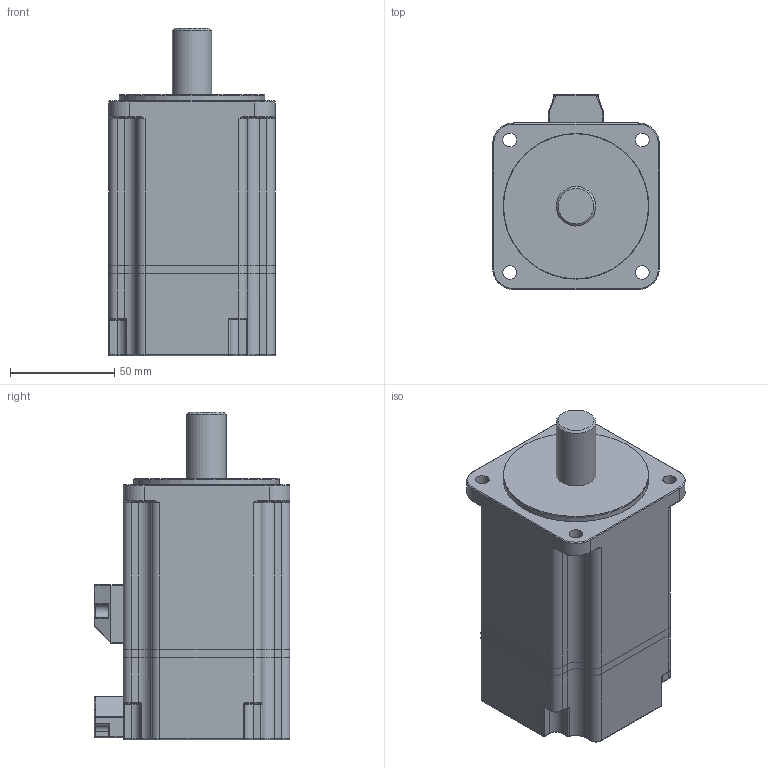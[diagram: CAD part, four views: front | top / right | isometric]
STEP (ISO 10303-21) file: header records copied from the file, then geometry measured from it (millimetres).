
FILE_DESCRIPTION(/* description */ (''),/* implementation_level */ '2;1');
FILE_NAME(/* name */ '80-MSL01330.stp',/* time_stamp */ '2019-11-22T13:32:59+08:00',/* author */ (''),/* organization */ (''),/* preprocessor_version */ 'ST-DEVELOPER v16',/* originating_system */ 'SIEMENS PLM Software NX 10.0',/* authorisation */ '');
FILE_SCHEMA (('CONFIG_CONTROL_DESIGN'));
Length unit declared in the file: millimetre
Products named in the file (1): 80-MSL01330
Bounding box: 80 x 94 x 157.5 mm (x, y, z)
Volume: 728847.6 mm3; surface area: 78836.3 mm2
Topology: 5 solids, 5 shells, 341 faces, 822 edges, 466 vertices
Faces by surface type: cylinder 155, plane 90, torus 50, sphere 27, bspline 17, cone 2
Full cylindrical faces by diameter (mm): 6.6 x4, 19 x1, 70 x1
Entity records: 9898 total; most frequent: CARTESIAN_POINT 1950, DIRECTION 1793, ORIENTED_EDGE 1566, EDGE_CURVE 783, AXIS2_PLACEMENT_3D 711, VERTEX_POINT 462, LINE 371, VECTOR 371
